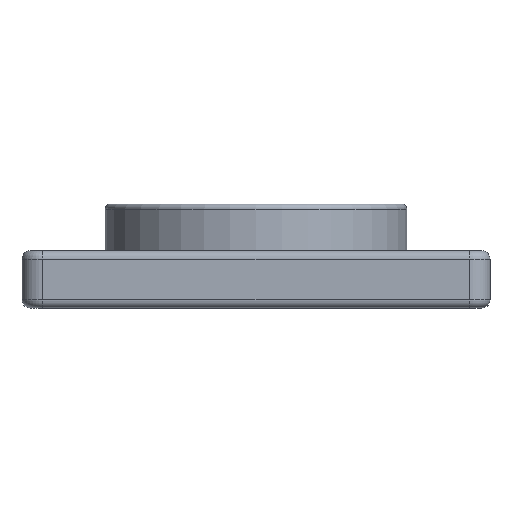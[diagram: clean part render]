
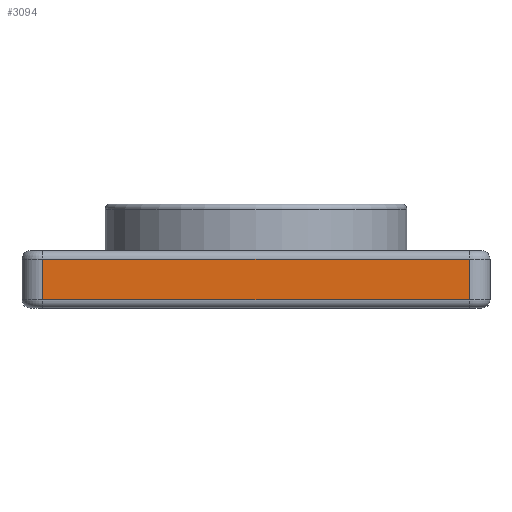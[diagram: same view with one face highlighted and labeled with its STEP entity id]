
A CAD part, front view. The second image highlights one B-rep face of the part: STEP entity #3094.
In plain terms, the highlighted planar face has unit normal (0, -1, 0).
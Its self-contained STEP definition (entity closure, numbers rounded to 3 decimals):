
#269 = EDGE_CURVE ( 'NONE', #3970, #910, #475, .T. ) ;
#424 = CARTESIAN_POINT ( 'NONE',  ( 20.5, -22.5, 5.5 ) ) ;
#475 = LINE ( 'NONE', #6198, #1977 ) ;
#719 = CARTESIAN_POINT ( 'NONE',  ( 20.5, -22.5, 4.7 ) ) ;
#735 = VECTOR ( 'NONE', #4126, 1000. ) ;
#910 = VERTEX_POINT ( 'NONE', #5807 ) ;
#1437 = LINE ( 'NONE', #1853, #6114 ) ;
#1487 = EDGE_LOOP ( 'NONE', ( #5221, #4972, #5450, #3953 ) ) ;
#1601 = LINE ( 'NONE', #3791, #2113 ) ;
#1652 = VERTEX_POINT ( 'NONE', #2393 ) ;
#1853 = CARTESIAN_POINT ( 'NONE',  ( -20.5, -22.5, 5.5 ) ) ;
#1947 = VERTEX_POINT ( 'NONE', #4844 ) ;
#1965 = EDGE_CURVE ( 'NONE', #1947, #1652, #1601, .T. ) ;
#1977 = VECTOR ( 'NONE', #3637, 1000. ) ;
#2113 = VECTOR ( 'NONE', #2628, 1000. ) ;
#2393 = CARTESIAN_POINT ( 'NONE',  ( 20.5, -22.5, 0.8 ) ) ;
#2628 = DIRECTION ( 'NONE',  ( 1., 0., 0. ) ) ;
#2883 = DIRECTION ( 'NONE',  ( 0., 0., -1. ) ) ;
#2973 = DIRECTION ( 'NONE',  ( 0., 0., 1. ) ) ;
#3094 = ADVANCED_FACE ( 'NONE', ( #5505 ), #6084, .F. ) ;
#3637 = DIRECTION ( 'NONE',  ( -1., 0., 0. ) ) ;
#3791 = CARTESIAN_POINT ( 'NONE',  ( -22.5, -22.5, 0.8 ) ) ;
#3953 = ORIENTED_EDGE ( 'NONE', *, *, #1965, .T. ) ;
#3970 = VERTEX_POINT ( 'NONE', #719 ) ;
#4126 = DIRECTION ( 'NONE',  ( 0., 0., 1. ) ) ;
#4702 = LINE ( 'NONE', #424, #735 ) ;
#4838 = AXIS2_PLACEMENT_3D ( 'NONE', #5469, #6015, #2973 ) ;
#4844 = CARTESIAN_POINT ( 'NONE',  ( -20.5, -22.5, 0.8 ) ) ;
#4972 = ORIENTED_EDGE ( 'NONE', *, *, #269, .T. ) ;
#5221 = ORIENTED_EDGE ( 'NONE', *, *, #6726, .T. ) ;
#5450 = ORIENTED_EDGE ( 'NONE', *, *, #5462, .T. ) ;
#5462 = EDGE_CURVE ( 'NONE', #910, #1947, #1437, .T. ) ;
#5469 = CARTESIAN_POINT ( 'NONE',  ( -22.5, -22.5, 5.5 ) ) ;
#5505 = FACE_OUTER_BOUND ( 'NONE', #1487, .T. ) ;
#5807 = CARTESIAN_POINT ( 'NONE',  ( -20.5, -22.5, 4.7 ) ) ;
#6015 = DIRECTION ( 'NONE',  ( 0., 1., 0. ) ) ;
#6084 = PLANE ( 'NONE',  #4838 ) ;
#6114 = VECTOR ( 'NONE', #2883, 1000. ) ;
#6198 = CARTESIAN_POINT ( 'NONE',  ( -20.5, -22.5, 4.7 ) ) ;
#6726 = EDGE_CURVE ( 'NONE', #1652, #3970, #4702, .T. ) ;
